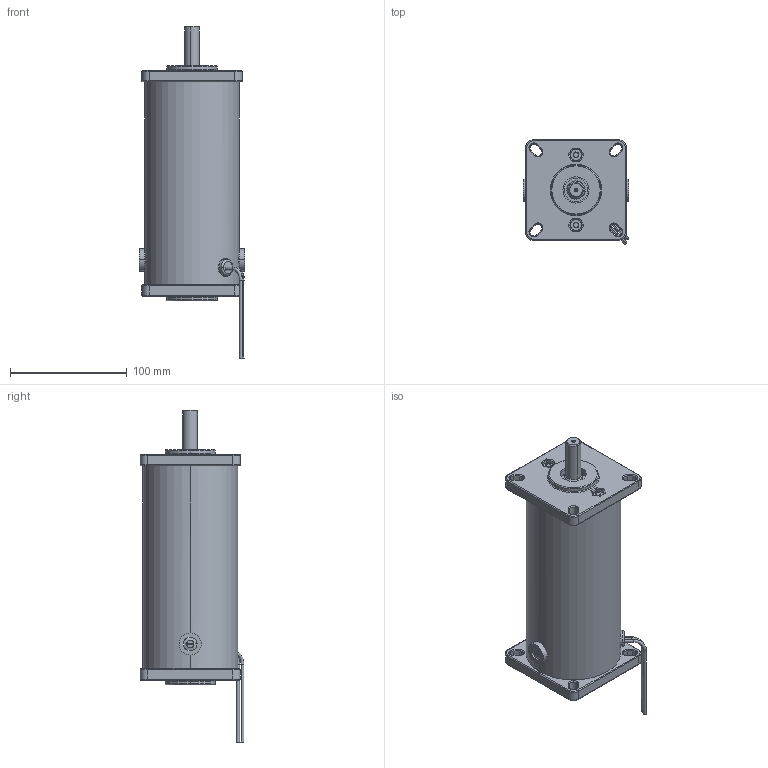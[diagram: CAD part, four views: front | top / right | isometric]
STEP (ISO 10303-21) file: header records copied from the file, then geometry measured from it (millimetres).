
FILE_DESCRIPTION (( 'STEP AP203' ), '1' );
FILE_NAME ('OUTLINE PM8018HV.STEP', '2006-08-10T16:31:47', ( 'Eng-KVV2' ), ( 'Groschopp' ), 'SwSTEP 2.0', 'SolidWorks 2006104', '' );
FILE_SCHEMA (( 'CONFIG_CONTROL_DESIGN' ));
Length unit declared in the file: inch
Products named in the file (1): OUTLINE PM8018HV
Bounding box: 90.54 x 88.77 x 283.97 mm (x, y, z)
Surface area: 85137.1 mm2 (no closed solid volume)
Topology: 0 solids, 24 shells, 393 faces, 1012 edges, 643 vertices
Faces by surface type: cylinder 200, plane 88, torus 84, cone 21
Entity records: 12380 total; most frequent: CARTESIAN_POINT 2465, DIRECTION 2317, ORIENTED_EDGE 1819, EDGE_CURVE 1012, AXIS2_PLACEMENT_3D 949, VERTEX_POINT 643, CIRCLE 555, EDGE_LOOP 438
